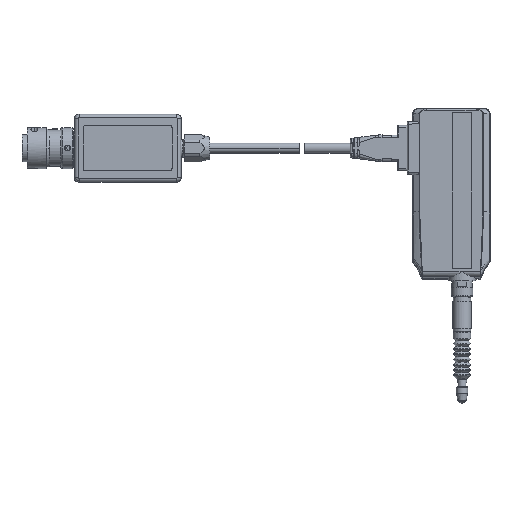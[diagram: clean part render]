
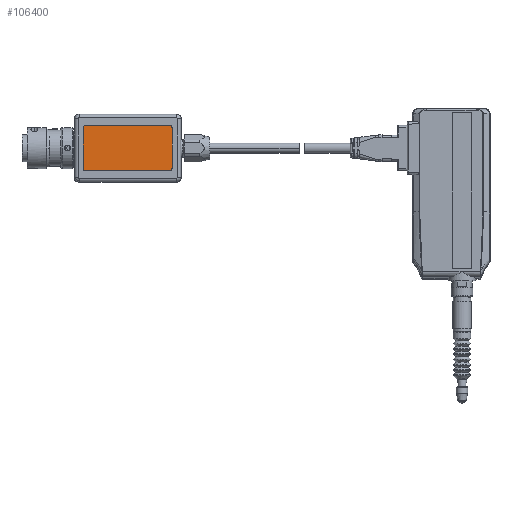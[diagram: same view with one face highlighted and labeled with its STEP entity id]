
A CAD part, top view. The second image highlights one B-rep face of the part: STEP entity #106400.
In plain terms, the highlighted planar face has unit normal (0, 0, 1).
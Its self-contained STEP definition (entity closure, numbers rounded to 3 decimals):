
#104750=CARTESIAN_POINT('',(10.,219.9,9.9));
#104760=VERTEX_POINT('',#104750);
#104790=CARTESIAN_POINT('',(9.,219.9,9.9));
#104800=DIRECTION('',(0.,0.,-1.));
#104810=DIRECTION('',(-1.,0.,0.));
#104820=AXIS2_PLACEMENT_3D('',#104790,#104800,#104810);
#104830=CIRCLE('',#104820,1.);
#104840=CARTESIAN_POINT('',(9.,220.9,9.9));
#104850=VERTEX_POINT('',#104840);
#104860=EDGE_CURVE('',#104850,#104760,#104830,.T.);
#105020=CARTESIAN_POINT('',(9.,182.9,9.9));
#105030=DIRECTION('',(0.,0.,-1.));
#105040=DIRECTION('',(-1.,0.,0.));
#105050=AXIS2_PLACEMENT_3D('',#105020,#105030,#105040);
#105060=CIRCLE('',#105050,1.);
#105070=CARTESIAN_POINT('',(10.,182.9,9.9));
#105080=VERTEX_POINT('',#105070);
#105090=CARTESIAN_POINT('',(9.,181.9,9.9));
#105100=VERTEX_POINT('',#105090);
#105110=EDGE_CURVE('',#105080,#105100,#105060,.T.);
#105390=CARTESIAN_POINT('',(-10.,182.9,9.9));
#105400=VERTEX_POINT('',#105390);
#105430=CARTESIAN_POINT('',(-9.,182.9,9.9));
#105440=DIRECTION('',(0.,0.,-1.));
#105450=DIRECTION('',(-1.,0.,0.));
#105460=AXIS2_PLACEMENT_3D('',#105430,#105440,#105450);
#105470=CIRCLE('',#105460,1.);
#105480=CARTESIAN_POINT('',(-9.,181.9,9.9));
#105490=VERTEX_POINT('',#105480);
#105500=EDGE_CURVE('',#105490,#105400,#105470,.T.);
#105710=CARTESIAN_POINT('',(-9.,220.9,9.9));
#105720=VERTEX_POINT('',#105710);
#105750=CARTESIAN_POINT('',(-9.,219.9,9.9));
#105760=DIRECTION('',(0.,0.,-1.));
#105770=DIRECTION('',(-1.,0.,0.));
#105780=AXIS2_PLACEMENT_3D('',#105750,#105760,#105770);
#105790=CIRCLE('',#105780,1.);
#105800=CARTESIAN_POINT('',(-10.,219.9,9.9));
#105810=VERTEX_POINT('',#105800);
#105820=EDGE_CURVE('',#105810,#105720,#105790,.T.);
#105980=CARTESIAN_POINT('',(0.,220.9,9.9));
#105990=DIRECTION('',(1.,0.,0.));
#106000=VECTOR('',#105990,1.);
#106010=LINE('',#105980,#106000);
#106020=EDGE_CURVE('',#105720,#104850,#106010,.T.);
#106100=CARTESIAN_POINT('',(-3.87,206.546,9.9));
#106110=DIRECTION('',(0.,0.,1.));
#106120=DIRECTION('',(1.,0.,0.));
#106130=AXIS2_PLACEMENT_3D('',#106100,#106110,#106120);
#106140=PLANE('',#106130);
#106150=ORIENTED_EDGE('',*,*,#105110,.F.);
#106160=CARTESIAN_POINT('',(0.,181.9,9.9));
#106170=DIRECTION('',(-1.,0.,0.));
#106180=VECTOR('',#106170,1.);
#106190=LINE('',#106160,#106180);
#106200=EDGE_CURVE('',#105100,#105490,#106190,.T.);
#106210=ORIENTED_EDGE('',*,*,#106200,.F.);
#106220=ORIENTED_EDGE('',*,*,#105500,.F.);
#106230=CARTESIAN_POINT('',(-10.,177.9,9.9));
#106240=DIRECTION('',(0.,1.,0.));
#106250=VECTOR('',#106240,1.);
#106260=LINE('',#106230,#106250);
#106270=EDGE_CURVE('',#105400,#105810,#106260,.T.);
#106280=ORIENTED_EDGE('',*,*,#106270,.F.);
#106290=ORIENTED_EDGE('',*,*,#105820,.F.);
#106300=ORIENTED_EDGE('',*,*,#106020,.F.);
#106310=ORIENTED_EDGE('',*,*,#104860,.F.);
#106320=CARTESIAN_POINT('',(10.,177.9,9.9));
#106330=DIRECTION('',(0.,-1.,0.));
#106340=VECTOR('',#106330,1.);
#106350=LINE('',#106320,#106340);
#106360=EDGE_CURVE('',#104760,#105080,#106350,.T.);
#106370=ORIENTED_EDGE('',*,*,#106360,.F.);
#106380=EDGE_LOOP('',(#106370,#106310,#106300,#106290,#106280,#106220,
#106210,#106150));
#106390=FACE_OUTER_BOUND('',#106380,.T.);
#106400=ADVANCED_FACE('',(#106390),#106140,.T.);
